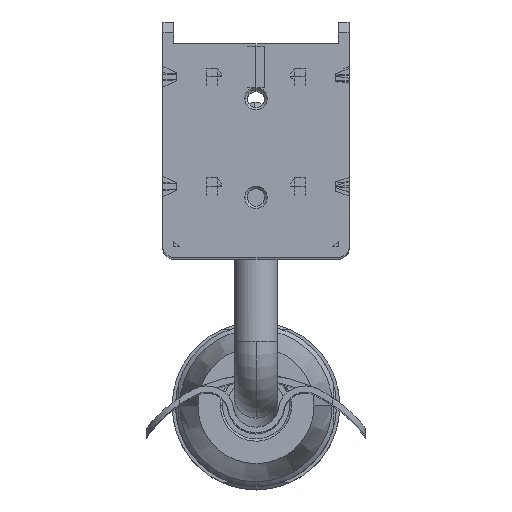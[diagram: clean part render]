
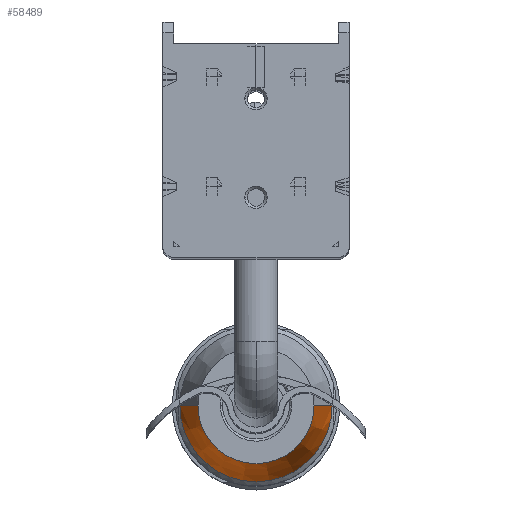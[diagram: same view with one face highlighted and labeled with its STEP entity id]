
A CAD part, top view. The second image highlights one B-rep face of the part: STEP entity #58489.
In plain terms, the highlighted conical face has half-angle 16.991 degrees and reference radius 6.95 mm.
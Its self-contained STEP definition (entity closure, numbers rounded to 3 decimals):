
#169 = DIRECTION ( 'NONE',  ( -1., 0., 0. ) ) ;
#455 = AXIS2_PLACEMENT_3D ( 'NONE', #57895, #52708, #20057 ) ;
#1386 = CARTESIAN_POINT ( 'NONE',  ( 41.748, -67.139, -546.453 ) ) ;
#2844 = CARTESIAN_POINT ( 'NONE',  ( 27.848, -67.139, -546.453 ) ) ;
#3135 = EDGE_CURVE ( 'NONE', #22233, #51099, #53470, .T. ) ;
#5102 = AXIS2_PLACEMENT_3D ( 'NONE', #46739, #30817, #52326 ) ;
#5899 = LINE ( 'NONE', #1386, #15304 ) ;
#9768 = CARTESIAN_POINT ( 'NONE',  ( 40.098, -67.139, -541.053 ) ) ;
#13655 = VERTEX_POINT ( 'NONE', #68525 ) ;
#15304 = VECTOR ( 'NONE', #42360, 1000. ) ;
#15956 = ORIENTED_EDGE ( 'NONE', *, *, #32803, .T. ) ;
#20057 = DIRECTION ( 'NONE',  ( -1., 0., 0. ) ) ;
#20673 = DIRECTION ( 'NONE',  ( 0., 0., -1. ) ) ;
#21339 = ORIENTED_EDGE ( 'NONE', *, *, #3135, .F. ) ;
#22233 = VERTEX_POINT ( 'NONE', #39266 ) ;
#23330 = DIRECTION ( 'NONE',  ( -0.292, 0., -0.956 ) ) ;
#30282 = VERTEX_POINT ( 'NONE', #9768 ) ;
#30422 = CIRCLE ( 'NONE', #455, 5.3 ) ;
#30817 = DIRECTION ( 'NONE',  ( 0., 0., -1. ) ) ;
#31810 = CARTESIAN_POINT ( 'NONE',  ( 34.798, -67.139, -546.453 ) ) ;
#32803 = EDGE_CURVE ( 'NONE', #30282, #13655, #30422, .T. ) ;
#34972 = FACE_OUTER_BOUND ( 'NONE', #64783, .T. ) ;
#36132 = CONICAL_SURFACE ( 'NONE', #5102, 6.95, 0.297 ) ;
#39266 = CARTESIAN_POINT ( 'NONE',  ( 41.748, -67.139, -546.453 ) ) ;
#42069 = ORIENTED_EDGE ( 'NONE', *, *, #60605, .T. ) ;
#42360 = DIRECTION ( 'NONE',  ( 0.292, 0., -0.956 ) ) ;
#44600 = AXIS2_PLACEMENT_3D ( 'NONE', #31810, #20673, #169 ) ;
#46406 = EDGE_CURVE ( 'NONE', #30282, #22233, #5899, .T. ) ;
#46739 = CARTESIAN_POINT ( 'NONE',  ( 34.798, -67.139, -546.453 ) ) ;
#50420 = LINE ( 'NONE', #2844, #60497 ) ;
#51099 = VERTEX_POINT ( 'NONE', #62689 ) ;
#52326 = DIRECTION ( 'NONE',  ( -1., 0., 0. ) ) ;
#52708 = DIRECTION ( 'NONE',  ( 0., 0., -1. ) ) ;
#53470 = CIRCLE ( 'NONE', #44600, 6.95 ) ;
#57895 = CARTESIAN_POINT ( 'NONE',  ( 34.798, -67.139, -541.053 ) ) ;
#58489 = ADVANCED_FACE ( 'NONE', ( #34972 ), #36132, .T. ) ;
#60497 = VECTOR ( 'NONE', #23330, 1000. ) ;
#60605 = EDGE_CURVE ( 'NONE', #13655, #51099, #50420, .T. ) ;
#62689 = CARTESIAN_POINT ( 'NONE',  ( 27.848, -67.139, -546.453 ) ) ;
#63032 = ORIENTED_EDGE ( 'NONE', *, *, #46406, .F. ) ;
#64783 = EDGE_LOOP ( 'NONE', ( #63032, #15956, #42069, #21339 ) ) ;
#68525 = CARTESIAN_POINT ( 'NONE',  ( 29.498, -67.139, -541.053 ) ) ;
